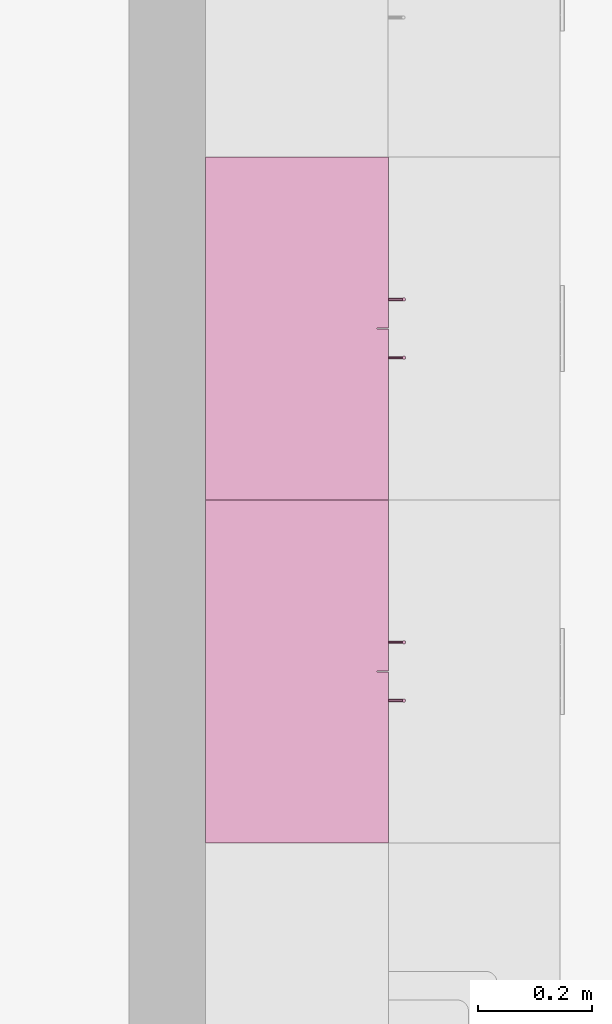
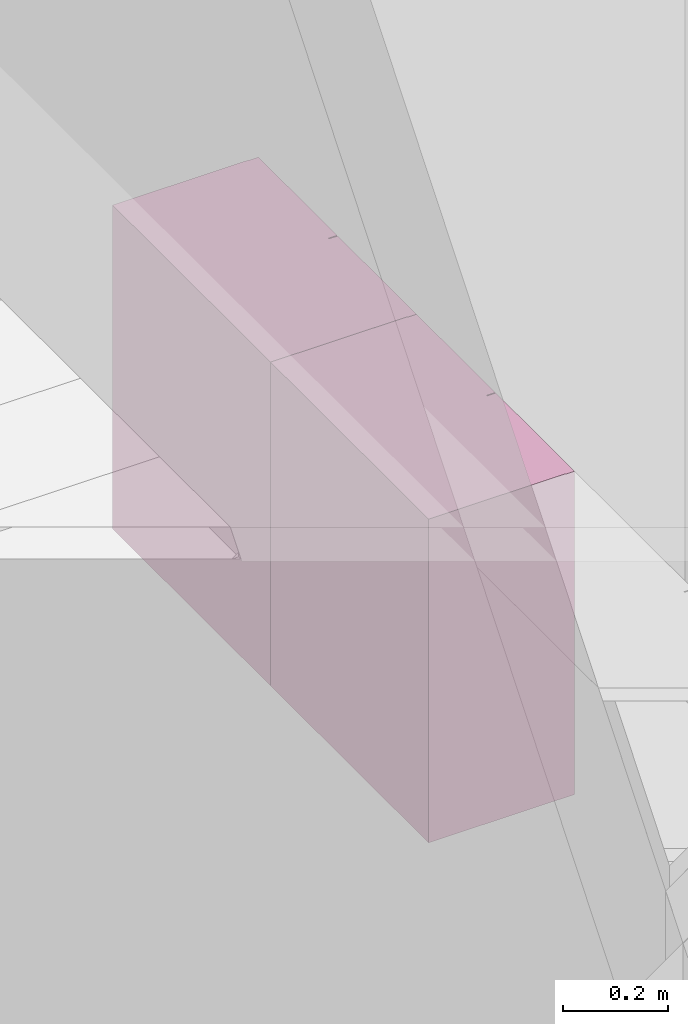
# One storey, part 62 of 68: 2 furnishings.
"""IFC2X3 building model written with IfcOpenShell, lengths in millimetres."""

from ifc_helpers import new_model, entity, si_unit, converted_unit, derived_unit, money_unit, direction, frame, origin_with_axes, place, context, subcontext, project, spatial, open_shell, faceted_brep, surface_model, source, transform, mapped, type_object, element, save


model = new_model("IFC2X3")

# Units and contexts
model_context = context("Model", 3, precision=0.01, world=origin_with_axes(), true_north=direction((0.0, 1.0)))
body_context = subcontext(model_context, "Body", "Model", "MODEL_VIEW")
ifc_project = project(units=[si_unit("LENGTHUNIT", "METRE", prefix="MILLI"), si_unit("AREAUNIT", "SQUARE_METRE"), si_unit("VOLUMEUNIT", "CUBIC_METRE"), converted_unit("PLANEANGLEUNIT", "DEGREE", entity("IfcPlaneAngleMeasure", 0.0174532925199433), si_unit("PLANEANGLEUNIT", "RADIAN"), dimensions=[0, 0, 0, 0, 0, 0, 0]), money_unit("USD"), converted_unit("TIMEUNIT", "Year", entity("IfcTimeMeasure", 31557600.0), si_unit("TIMEUNIT", "SECOND"), dimensions=[0, 0, 1, 0, 0, 0, 0]), si_unit("MASSUNIT", "GRAM", prefix="KILO"), si_unit("THERMODYNAMICTEMPERATUREUNIT", "DEGREE_CELSIUS"), si_unit("LUMINOUSINTENSITYUNIT", "LUMEN"), si_unit("ENERGYUNIT", "JOULE", prefix="MEGA"), derived_unit("THERMALCONDUCTANCEUNIT", [(si_unit("POWERUNIT", "WATT"), 1), (si_unit("LENGTHUNIT", "METRE"), -1), (si_unit("THERMODYNAMICTEMPERATUREUNIT", "KELVIN"), -1)]), derived_unit("SPECIFICHEATCAPACITYUNIT", [(si_unit("ENERGYUNIT", "JOULE"), 1), (si_unit("MASSUNIT", "GRAM", prefix="KILO"), -1), (si_unit("THERMODYNAMICTEMPERATUREUNIT", "KELVIN"), -1)]), derived_unit("MASSDENSITYUNIT", [(si_unit("MASSUNIT", "GRAM", prefix="KILO"), 1), (si_unit("VOLUMEUNIT", "CUBIC_METRE"), -1)])], contexts=[model_context])

# Site, building, storey
site_placement = place(None, origin_with_axes())
site = spatial("IfcSite", under=ifc_project, at=site_placement, Name="Sitio", CompositionType="ELEMENT")
building_placement = place(site_placement, origin_with_axes())
building = spatial("IfcBuilding", under=site, at=building_placement, Name="Construcción", CompositionType="ELEMENT")
storey_placement = place(building_placement, origin_with_axes())
storey = spatial("IfcBuildingStorey", under=building, at=storey_placement, Name="PLANTA 1ª", CompositionType="ELEMENT", Elevation=0.0)

# Furnishings
furnishing_element_type = type_object("IfcFurnishingElementType", Name="Armario Mural 2P 10")
shared_shape = source(origin_with_axes(), body_context, "Body", "SurfaceModel", [
    faceted_brep([(0.0, 0.0, 730.0), (20.0, 0.0, 730.0), (20.0, 0.0, 750.0), (0.0, 0.0, 750.0), (0.0, 299.9999999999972, 730.0), (20.0, 299.9999999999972, 730.0), (579.9999999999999, 299.9999999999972, 730.0), (599.9999999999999, 299.9999999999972, 730.0), (599.9999999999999, 0.0, 730.0), (579.9999999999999, 0.0, 730.0), (579.9999999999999, 0.0, 750.0), (599.9999999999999, 0.0, 750.0), (599.9999999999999, 299.9999999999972, 750.0), (579.9999999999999, 299.9999999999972, 750.0), (20.0, 299.9999999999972, 750.0), (0.0, 299.9999999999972, 750.0)], [[[0, 1, 2, 3]], [[0, 4, 5, 6, 7, 8, 9, 1]], [[1, 9, 10, 2]], [[3, 2, 10, 11, 12, 13, 14, 15]], [[4, 0, 3, 15]], [[5, 4, 15, 14]], [[6, 5, 14, 13]], [[7, 6, 13, 12]], [[8, 7, 12, 11]], [[9, 8, 11, 10]]]),
    faceted_brep([(0.0, 0.0, 0.0), (20.0, 0.0, 0.0), (20.0, 0.0, 20.0), (0.0, 0.0, 20.0), (0.0, 299.9999999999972, 0.0), (20.0, 299.9999999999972, 0.0), (579.9999999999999, 299.9999999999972, 0.0), (599.9999999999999, 299.9999999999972, 0.0), (599.9999999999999, 0.0, 0.0), (579.9999999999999, 0.0, 0.0), (579.9999999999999, 0.0, 20.0), (599.9999999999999, 0.0, 20.0), (599.9999999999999, 299.9999999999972, 20.0), (579.9999999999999, 299.9999999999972, 20.0), (20.0, 299.9999999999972, 20.0), (0.0, 299.9999999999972, 20.0)], [[[0, 1, 2, 3]], [[0, 4, 5, 6, 7, 8, 9, 1]], [[1, 9, 10, 2]], [[3, 2, 10, 11, 12, 13, 14, 15]], [[4, 0, 3, 15]], [[5, 4, 15, 14]], [[6, 5, 14, 13]], [[7, 6, 13, 12]], [[8, 7, 12, 11]], [[9, 8, 11, 10]]]),
    faceted_brep([(0.0, 0.0, 20.0), (20.0, 0.0, 20.0), (20.0, 0.0, 730.0), (0.0, 0.0, 730.0), (0.0, 299.9999999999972, 20.0), (599.9999999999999, 299.9999999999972, 20.0), (599.9999999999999, 0.0, 20.0), (579.9999999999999, 0.0, 20.0), (579.9999999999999, 279.9999999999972, 20.0), (20.0, 279.9999999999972, 20.0), (20.0, 279.9999999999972, 730.0), (579.9999999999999, 279.9999999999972, 730.0), (579.9999999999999, 0.0, 730.0), (599.9999999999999, 0.0, 730.0), (599.9999999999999, 299.9999999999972, 730.0), (0.0, 299.9999999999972, 730.0)], [[[0, 1, 2, 3]], [[0, 4, 5, 6, 7, 8, 9, 1]], [[1, 9, 10, 2]], [[3, 2, 10, 11, 12, 13, 14, 15]], [[4, 0, 3, 15]], [[5, 4, 15, 14]], [[6, 5, 14, 13]], [[7, 6, 13, 12]], [[8, 7, 12, 11]], [[9, 8, 11, 10]]]),
    faceted_brep([(579.9999999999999, 0.0, 230.0), (579.9999999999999, 279.9999999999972, 230.0), (579.9999999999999, 279.9999999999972, 250.0), (579.9999999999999, 0.0, 250.0), (20.0, 0.0, 230.0), (20.0, 279.9999999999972, 230.0), (20.0, 279.9999999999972, 250.0), (20.0, 0.0, 250.0)], [[[0, 1, 2, 3]], [[0, 4, 5, 1]], [[1, 5, 6, 2]], [[3, 2, 6, 7]], [[4, 0, 3, 7]], [[5, 4, 7, 6]]]),
    faceted_brep([(579.9999999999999, 0.0, 480.0), (579.9999999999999, 279.9999999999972, 480.0), (579.9999999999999, 279.9999999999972, 500.0), (579.9999999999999, 0.0, 500.0), (20.0, 0.0, 480.0), (20.0, 279.9999999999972, 480.0), (20.0, 279.9999999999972, 500.0), (20.0, 0.0, 500.0)], [[[0, 1, 2, 3]], [[0, 4, 5, 1]], [[1, 5, 6, 2]], [[3, 2, 6, 7]], [[4, 0, 3, 7]], [[5, 4, 7, 6]]]),
    faceted_brep([(0.0, 0.0, 0.0), (298.9999999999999, 0.0, 0.0), (298.9999999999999, -20.0, 0.0), (0.0, -20.0, 0.0), (0.0, 0.0, 749.0), (298.9999999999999, 0.0, 749.0), (298.9999999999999, -19.99999999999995, 749.0), (0.0, -19.99999999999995, 749.0)], [[[0, 1, 2, 3]], [[0, 4, 5, 1]], [[1, 5, 6, 2]], [[3, 2, 6, 7]], [[4, 0, 3, 7]], [[5, 4, 7, 6]]]),
    faceted_brep([(251.8977774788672, -47.77645713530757, 50.00000000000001), (251.5980762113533, -48.50000000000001, 50.00000000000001), (251.1213203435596, -49.12132034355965, 50.00000000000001), (250.4999999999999, -49.59807621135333, 50.00000000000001), (249.7764571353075, -49.89777747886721, 50.00000000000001), (248.9999999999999, -50.00000000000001, 50.00000000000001), (248.2235428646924, -49.89777747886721, 50.00000000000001), (247.4999999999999, -49.59807621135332, 50.00000000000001), (246.8786796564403, -49.12132034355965, 50.00000000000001), (246.4019237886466, -48.50000000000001, 50.00000000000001), (246.1022225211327, -47.77645713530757, 50.00000000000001), (245.9999999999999, -47.00000000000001, 50.00000000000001), (246.1022225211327, -46.22354286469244, 50.00000000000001), (246.4019237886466, -45.50000000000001, 50.00000000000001), (246.8786796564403, -44.87867965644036, 50.00000000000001), (247.4999999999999, -44.40192378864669, 50.00000000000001), (248.2235428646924, -44.1022225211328, 50.00000000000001), (248.9999999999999, -44.00000000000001, 50.00000000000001), (249.7764571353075, -44.1022225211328, 50.00000000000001), (250.4999999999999, -44.40192378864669, 50.00000000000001), (251.1213203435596, -44.87867965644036, 50.00000000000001), (251.5980762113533, -45.50000000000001, 50.00000000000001), (251.8977774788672, -46.22354286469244, 50.00000000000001), (251.9999999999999, -47.00000000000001, 50.00000000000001), (251.8977774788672, -47.77645713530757, 150.0), (251.5980762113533, -48.50000000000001, 150.0), (251.1213203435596, -49.12132034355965, 150.0), (250.4999999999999, -49.59807621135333, 150.0), (249.7764571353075, -49.89777747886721, 150.0), (248.9999999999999, -50.00000000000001, 150.0), (248.2235428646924, -49.89777747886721, 150.0), (247.4999999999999, -49.59807621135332, 150.0), (246.8786796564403, -49.12132034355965, 150.0), (246.4019237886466, -48.50000000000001, 150.0), (246.1022225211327, -47.77645713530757, 150.0), (245.9999999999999, -47.00000000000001, 150.0), (246.1022225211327, -46.22354286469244, 150.0), (246.4019237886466, -45.50000000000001, 150.0), (246.8786796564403, -44.87867965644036, 150.0), (247.4999999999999, -44.40192378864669, 150.0), (248.2235428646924, -44.1022225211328, 150.0), (248.9999999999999, -44.00000000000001, 150.0), (249.7764571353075, -44.1022225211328, 150.0), (250.4999999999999, -44.40192378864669, 150.0), (251.1213203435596, -44.87867965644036, 150.0), (251.5980762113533, -45.50000000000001, 150.0), (251.8977774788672, -46.22354286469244, 150.0), (251.9999999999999, -47.00000000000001, 150.0)], [[[0, 1, 2, 3, 4, 5, 6, 7, 8, 9, 10, 11, 12, 13, 14, 15, 16, 17, 18, 19, 20, 21, 22, 23]], [[1, 0, 24, 25]], [[2, 1, 25, 26]], [[3, 2, 26, 27]], [[4, 3, 27, 28]], [[5, 4, 28, 29]], [[6, 5, 29, 30]], [[7, 6, 30, 31]], [[8, 7, 31, 32]], [[9, 8, 32, 33]], [[10, 9, 33, 34]], [[11, 10, 34, 35]], [[12, 11, 35, 36]], [[13, 12, 36, 37]], [[14, 13, 37, 38]], [[15, 14, 38, 39]], [[16, 15, 39, 40]], [[17, 16, 40, 41]], [[18, 17, 41, 42]], [[19, 18, 42, 43]], [[20, 19, 43, 44]], [[21, 20, 44, 45]], [[22, 21, 45, 46]], [[23, 22, 46, 47]], [[0, 23, 47, 24]], [[24, 47, 46, 45, 44, 43, 42, 41, 40, 39, 38, 37, 36, 35, 34, 33, 32, 31, 30, 29, 28, 27, 26, 25]]]),
    surface_model("IfcShellBasedSurfaceModel", [(249.6470476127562, -44.07060938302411, 72.58518543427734), (248.9999999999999, -44.0, 72.50000000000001), (248.9999999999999, -20.0, 72.50000000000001), (249.6470476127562, -20.0, 72.58518543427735), (248.3529523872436, -44.07060938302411, 72.58518543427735), (248.3529523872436, -20.0, 72.58518543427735), (247.7499999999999, -20.0, 72.83493649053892), (247.2322330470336, -20.0, 73.23223304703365), (246.8349364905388, -20.0, 73.75000000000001), (246.5851854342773, -20.0, 74.3529523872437), (246.4999999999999, -20.0, 75.00000000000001), (246.5851854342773, -20.0, 75.64704761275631), (246.8349364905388, -20.0, 76.25000000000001), (247.2322330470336, -20.0, 76.76776695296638), (247.7499999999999, -20.0, 77.1650635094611), (248.3529523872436, -20.0, 77.4148145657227), (248.9999999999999, -20.0, 77.50000000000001), (249.6470476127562, -20.0, 77.4148145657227), (250.2499999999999, -20.0, 77.1650635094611), (250.7677669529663, -20.0, 76.76776695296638), (251.165063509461, -20.0, 76.25000000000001), (251.4148145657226, -20.0, 75.64704761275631), (251.4999999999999, -20.0, 75.00000000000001), (251.4148145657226, -20.0, 74.3529523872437), (251.165063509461, -20.0, 73.75000000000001), (250.7677669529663, -20.0, 73.23223304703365), (250.25, -20.0, 72.83493649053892), (250.25, -44.27282197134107, 72.83493649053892), (247.7499999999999, -44.27282197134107, 72.83493649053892), (247.2322330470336, -44.57616007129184, 73.23223304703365), (246.8349364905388, -44.92334403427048, 73.75000000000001), (246.5851854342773, -45.21992398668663, 74.3529523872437), (246.4999999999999, -45.3416876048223, 75.00000000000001), (246.5851854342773, -45.21992398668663, 75.64704761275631), (246.8349364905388, -44.92334403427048, 76.25000000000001), (247.2322330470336, -44.57616007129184, 76.76776695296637), (247.7499999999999, -44.27282197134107, 77.1650635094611), (248.3529523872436, -44.07060938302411, 77.41481456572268), (248.9999999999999, -44.0, 77.50000000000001), (249.6470476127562, -44.07060938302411, 77.4148145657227), (250.2499999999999, -44.27282197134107, 77.1650635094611), (250.7677669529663, -44.57616007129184, 76.76776695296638), (251.165063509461, -44.92334403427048, 76.25000000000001), (251.4148145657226, -45.21992398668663, 75.64704761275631), (251.4999999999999, -45.3416876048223, 75.00000000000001), (251.4148145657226, -45.21992398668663, 74.3529523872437), (251.165063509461, -44.92334403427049, 73.75000000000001), (250.7677669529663, -44.57616007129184, 73.23223304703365)], [open_shell([[[0, 1, 2, 3]], [[1, 4, 5, 2]], [[3, 2, 5, 6, 7, 8, 9, 10, 11, 12, 13, 14, 15, 16, 17, 18, 19, 20, 21, 22, 23, 24, 25, 26]], [[27, 0, 3, 26]], [[4, 28, 6, 5]], [[28, 29, 7, 6]], [[29, 30, 8, 7]], [[30, 31, 9, 8]], [[31, 32, 10, 9]], [[32, 33, 11, 10]], [[33, 34, 12, 11]], [[34, 35, 13, 12]], [[35, 36, 14, 13]], [[36, 37, 15, 14]], [[37, 38, 16, 15]], [[38, 39, 17, 16]], [[39, 40, 18, 17]], [[40, 41, 19, 18]], [[41, 42, 20, 19]], [[42, 43, 21, 20]], [[43, 44, 22, 21]], [[44, 45, 23, 22]], [[45, 46, 24, 23]], [[46, 47, 25, 24]], [[47, 27, 26, 25]]])]),
    surface_model("IfcShellBasedSurfaceModel", [(249.6470476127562, -44.07060938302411, 122.5851854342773), (248.9999999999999, -44.0, 122.5), (248.9999999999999, -20.0, 122.5), (249.6470476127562, -20.0, 122.5851854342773), (248.3529523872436, -44.07060938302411, 122.5851854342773), (248.3529523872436, -20.0, 122.5851854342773), (247.7499999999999, -20.0, 122.8349364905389), (247.2322330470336, -20.0, 123.2322330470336), (246.8349364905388, -20.0, 123.75), (246.5851854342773, -20.0, 124.3529523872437), (246.4999999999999, -20.0, 125.0), (246.5851854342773, -20.0, 125.6470476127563), (246.8349364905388, -20.0, 126.25), (247.2322330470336, -20.0, 126.7677669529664), (247.7499999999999, -20.0, 127.1650635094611), (248.3529523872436, -20.0, 127.4148145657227), (248.9999999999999, -20.0, 127.5), (249.6470476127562, -20.0, 127.4148145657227), (250.2499999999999, -20.0, 127.1650635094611), (250.7677669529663, -20.0, 126.7677669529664), (251.165063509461, -20.0, 126.25), (251.4148145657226, -20.0, 125.6470476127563), (251.4999999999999, -20.0, 125.0), (251.4148145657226, -20.0, 124.3529523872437), (251.165063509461, -20.0, 123.75), (250.7677669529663, -20.0, 123.2322330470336), (250.25, -20.0, 122.8349364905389), (250.25, -44.27282197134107, 122.8349364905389), (247.7499999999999, -44.27282197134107, 122.8349364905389), (247.2322330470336, -44.57616007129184, 123.2322330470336), (246.8349364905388, -44.92334403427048, 123.75), (246.5851854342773, -45.21992398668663, 124.3529523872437), (246.4999999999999, -45.3416876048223, 125.0), (246.5851854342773, -45.21992398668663, 125.6470476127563), (246.8349364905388, -44.92334403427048, 126.25), (247.2322330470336, -44.57616007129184, 126.7677669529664), (247.7499999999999, -44.27282197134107, 127.1650635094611), (248.3529523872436, -44.07060938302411, 127.4148145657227), (248.9999999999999, -44.0, 127.5), (249.6470476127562, -44.07060938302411, 127.4148145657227), (250.2499999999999, -44.27282197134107, 127.1650635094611), (250.7677669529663, -44.57616007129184, 126.7677669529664), (251.165063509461, -44.92334403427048, 126.25), (251.4148145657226, -45.21992398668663, 125.6470476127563), (251.4999999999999, -45.3416876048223, 125.0), (251.4148145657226, -45.21992398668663, 124.3529523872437), (251.165063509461, -44.92334403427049, 123.75), (250.7677669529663, -44.57616007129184, 123.2322330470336)], [open_shell([[[0, 1, 2, 3]], [[1, 4, 5, 2]], [[3, 2, 5, 6, 7, 8, 9, 10, 11, 12, 13, 14, 15, 16, 17, 18, 19, 20, 21, 22, 23, 24, 25, 26]], [[27, 0, 3, 26]], [[4, 28, 6, 5]], [[28, 29, 7, 6]], [[29, 30, 8, 7]], [[30, 31, 9, 8]], [[31, 32, 10, 9]], [[32, 33, 11, 10]], [[33, 34, 12, 11]], [[34, 35, 13, 12]], [[35, 36, 14, 13]], [[36, 37, 15, 14]], [[37, 38, 16, 15]], [[38, 39, 17, 16]], [[39, 40, 18, 17]], [[40, 41, 19, 18]], [[41, 42, 20, 19]], [[42, 43, 21, 20]], [[43, 44, 22, 21]], [[44, 45, 23, 22]], [[45, 46, 24, 23]], [[46, 47, 25, 24]], [[47, 27, 26, 25]]])]),
    faceted_brep([(599.9999999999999, 0.0, 0.0), (599.9999999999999, -20.0, 0.0), (300.9999999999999, -20.0, 0.0), (300.9999999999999, 0.0, 0.0), (599.9999999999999, 0.0, 749.0), (599.9999999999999, -19.99999999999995, 749.0), (300.9999999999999, -19.99999999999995, 749.0), (300.9999999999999, 0.0, 749.0)], [[[0, 1, 2, 3]], [[4, 5, 1, 0]], [[1, 5, 6, 2]], [[3, 2, 6, 7]], [[0, 3, 7, 4]], [[7, 6, 5, 4]]]),
    faceted_brep([(348.1022225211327, -47.77645713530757, 50.00000000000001), (347.9999999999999, -47.00000000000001, 50.00000000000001), (348.1022225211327, -46.22354286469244, 50.00000000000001), (348.4019237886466, -45.50000000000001, 50.00000000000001), (348.8786796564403, -44.87867965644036, 50.00000000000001), (349.4999999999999, -44.40192378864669, 50.00000000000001), (350.2235428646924, -44.1022225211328, 50.00000000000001), (350.9999999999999, -44.00000000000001, 50.00000000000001), (351.7764571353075, -44.1022225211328, 50.00000000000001), (352.4999999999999, -44.40192378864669, 50.00000000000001), (353.1213203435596, -44.87867965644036, 50.00000000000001), (353.5980762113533, -45.50000000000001, 50.00000000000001), (353.8977774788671, -46.22354286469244, 50.00000000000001), (353.9999999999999, -47.00000000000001, 50.00000000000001), (353.8977774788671, -47.77645713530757, 50.00000000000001), (353.5980762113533, -48.50000000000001, 50.00000000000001), (353.1213203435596, -49.12132034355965, 50.00000000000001), (352.4999999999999, -49.59807621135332, 50.00000000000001), (351.7764571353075, -49.89777747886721, 50.00000000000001), (350.9999999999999, -50.00000000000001, 50.00000000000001), (350.2235428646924, -49.89777747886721, 50.00000000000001), (349.4999999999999, -49.59807621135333, 50.00000000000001), (348.8786796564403, -49.12132034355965, 50.00000000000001), (348.4019237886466, -48.50000000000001, 50.00000000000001), (348.1022225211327, -47.77645713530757, 150.0), (347.9999999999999, -47.00000000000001, 150.0), (348.1022225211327, -46.22354286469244, 150.0), (348.4019237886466, -45.50000000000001, 150.0), (348.8786796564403, -44.87867965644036, 150.0), (349.4999999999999, -44.40192378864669, 150.0), (350.2235428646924, -44.1022225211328, 150.0), (350.9999999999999, -44.00000000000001, 150.0), (351.7764571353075, -44.1022225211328, 150.0), (352.4999999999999, -44.40192378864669, 150.0), (353.1213203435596, -44.87867965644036, 150.0), (353.5980762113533, -45.50000000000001, 150.0), (353.8977774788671, -46.22354286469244, 150.0), (353.9999999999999, -47.00000000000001, 150.0), (353.8977774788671, -47.77645713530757, 150.0), (353.5980762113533, -48.50000000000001, 150.0), (353.1213203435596, -49.12132034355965, 150.0), (352.4999999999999, -49.59807621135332, 150.0), (351.7764571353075, -49.89777747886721, 150.0), (350.9999999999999, -50.00000000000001, 150.0), (350.2235428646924, -49.89777747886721, 150.0), (349.4999999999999, -49.59807621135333, 150.0), (348.8786796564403, -49.12132034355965, 150.0), (348.4019237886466, -48.50000000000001, 150.0)], [[[0, 1, 2, 3, 4, 5, 6, 7, 8, 9, 10, 11, 12, 13, 14, 15, 16, 17, 18, 19, 20, 21, 22, 23]], [[0, 24, 25, 1]], [[1, 25, 26, 2]], [[2, 26, 27, 3]], [[3, 27, 28, 4]], [[4, 28, 29, 5]], [[5, 29, 30, 6]], [[6, 30, 31, 7]], [[7, 31, 32, 8]], [[8, 32, 33, 9]], [[9, 33, 34, 10]], [[10, 34, 35, 11]], [[11, 35, 36, 12]], [[12, 36, 37, 13]], [[13, 37, 38, 14]], [[14, 38, 39, 15]], [[15, 39, 40, 16]], [[16, 40, 41, 17]], [[17, 41, 42, 18]], [[18, 42, 43, 19]], [[19, 43, 44, 20]], [[20, 44, 45, 21]], [[21, 45, 46, 22]], [[22, 46, 47, 23]], [[23, 47, 24, 0]], [[24, 47, 46, 45, 44, 43, 42, 41, 40, 39, 38, 37, 36, 35, 34, 33, 32, 31, 30, 29, 28, 27, 26, 25]]]),
    surface_model("IfcShellBasedSurfaceModel", [(350.3529523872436, -44.07060938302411, 72.58518543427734), (350.3529523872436, -20.0, 72.58518543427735), (350.9999999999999, -20.0, 72.50000000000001), (350.9999999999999, -44.0, 72.50000000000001), (349.7499999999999, -44.27282197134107, 72.83493649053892), (349.7499999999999, -20.0, 72.83493649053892), (349.2322330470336, -20.0, 73.23223304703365), (348.8349364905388, -20.0, 73.75000000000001), (348.5851854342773, -20.0, 74.3529523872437), (348.4999999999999, -20.0, 75.00000000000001), (348.5851854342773, -20.0, 75.64704761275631), (348.8349364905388, -20.0, 76.25000000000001), (349.2322330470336, -20.0, 76.76776695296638), (349.7499999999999, -20.0, 77.1650635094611), (350.3529523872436, -20.0, 77.4148145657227), (350.9999999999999, -20.0, 77.50000000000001), (351.6470476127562, -20.0, 77.4148145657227), (352.2499999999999, -20.0, 77.1650635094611), (352.7677669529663, -20.0, 76.76776695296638), (353.165063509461, -20.0, 76.25000000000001), (353.4148145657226, -20.0, 75.64704761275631), (353.4999999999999, -20.0, 75.00000000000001), (353.4148145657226, -20.0, 74.3529523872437), (353.165063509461, -20.0, 73.75000000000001), (352.7677669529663, -20.0, 73.23223304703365), (352.2499999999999, -20.0, 72.83493649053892), (351.6470476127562, -20.0, 72.58518543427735), (351.6470476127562, -44.07060938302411, 72.58518543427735), (349.2322330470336, -44.57616007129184, 73.23223304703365), (348.8349364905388, -44.92334403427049, 73.75000000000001), (348.5851854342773, -45.21992398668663, 74.3529523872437), (348.4999999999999, -45.3416876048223, 75.00000000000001), (348.5851854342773, -45.21992398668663, 75.64704761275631), (348.8349364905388, -44.92334403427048, 76.25000000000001), (349.2322330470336, -44.57616007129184, 76.76776695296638), (349.7499999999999, -44.27282197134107, 77.1650635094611), (350.3529523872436, -44.07060938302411, 77.4148145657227), (350.9999999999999, -44.0, 77.50000000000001), (351.6470476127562, -44.07060938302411, 77.41481456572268), (352.2499999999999, -44.27282197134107, 77.1650635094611), (352.7677669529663, -44.57616007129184, 76.76776695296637), (353.165063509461, -44.92334403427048, 76.25000000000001), (353.4148145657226, -45.21992398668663, 75.64704761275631), (353.4999999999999, -45.3416876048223, 75.00000000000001), (353.4148145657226, -45.21992398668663, 74.3529523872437), (353.165063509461, -44.92334403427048, 73.75000000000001), (352.7677669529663, -44.57616007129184, 73.23223304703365), (352.2499999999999, -44.27282197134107, 72.83493649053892)], [open_shell([[[0, 1, 2, 3]], [[4, 5, 1, 0]], [[1, 5, 6, 7, 8, 9, 10, 11, 12, 13, 14, 15, 16, 17, 18, 19, 20, 21, 22, 23, 24, 25, 26, 2]], [[3, 2, 26, 27]], [[28, 6, 5, 4]], [[29, 7, 6, 28]], [[30, 8, 7, 29]], [[31, 9, 8, 30]], [[32, 10, 9, 31]], [[33, 11, 10, 32]], [[34, 12, 11, 33]], [[35, 13, 12, 34]], [[36, 14, 13, 35]], [[37, 15, 14, 36]], [[38, 16, 15, 37]], [[39, 17, 16, 38]], [[40, 18, 17, 39]], [[41, 19, 18, 40]], [[42, 20, 19, 41]], [[43, 21, 20, 42]], [[44, 22, 21, 43]], [[45, 23, 22, 44]], [[46, 24, 23, 45]], [[47, 25, 24, 46]], [[27, 26, 25, 47]]])]),
    surface_model("IfcShellBasedSurfaceModel", [(350.3529523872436, -44.07060938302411, 122.5851854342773), (350.3529523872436, -20.0, 122.5851854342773), (350.9999999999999, -20.0, 122.5), (350.9999999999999, -44.0, 122.5), (349.7499999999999, -44.27282197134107, 122.8349364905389), (349.7499999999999, -20.0, 122.8349364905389), (349.2322330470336, -20.0, 123.2322330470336), (348.8349364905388, -20.0, 123.75), (348.5851854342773, -20.0, 124.3529523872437), (348.4999999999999, -20.0, 125.0), (348.5851854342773, -20.0, 125.6470476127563), (348.8349364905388, -20.0, 126.25), (349.2322330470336, -20.0, 126.7677669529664), (349.7499999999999, -20.0, 127.1650635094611), (350.3529523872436, -20.0, 127.4148145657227), (350.9999999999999, -20.0, 127.5), (351.6470476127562, -20.0, 127.4148145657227), (352.2499999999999, -20.0, 127.1650635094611), (352.7677669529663, -20.0, 126.7677669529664), (353.165063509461, -20.0, 126.25), (353.4148145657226, -20.0, 125.6470476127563), (353.4999999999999, -20.0, 125.0), (353.4148145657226, -20.0, 124.3529523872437), (353.165063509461, -20.0, 123.75), (352.7677669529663, -20.0, 123.2322330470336), (352.2499999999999, -20.0, 122.8349364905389), (351.6470476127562, -20.0, 122.5851854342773), (351.6470476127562, -44.07060938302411, 122.5851854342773), (349.2322330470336, -44.57616007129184, 123.2322330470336), (348.8349364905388, -44.92334403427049, 123.75), (348.5851854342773, -45.21992398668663, 124.3529523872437), (348.4999999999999, -45.3416876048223, 125.0), (348.5851854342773, -45.21992398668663, 125.6470476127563), (348.8349364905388, -44.92334403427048, 126.25), (349.2322330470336, -44.57616007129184, 126.7677669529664), (349.7499999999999, -44.27282197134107, 127.1650635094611), (350.3529523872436, -44.07060938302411, 127.4148145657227), (350.9999999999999, -44.0, 127.5), (351.6470476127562, -44.07060938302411, 127.4148145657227), (352.2499999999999, -44.27282197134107, 127.1650635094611), (352.7677669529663, -44.57616007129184, 126.7677669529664), (353.165063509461, -44.92334403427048, 126.25), (353.4148145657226, -45.21992398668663, 125.6470476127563), (353.4999999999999, -45.3416876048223, 125.0), (353.4148145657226, -45.21992398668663, 124.3529523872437), (353.165063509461, -44.92334403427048, 123.75), (352.7677669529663, -44.57616007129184, 123.2322330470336), (352.2499999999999, -44.27282197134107, 122.8349364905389)], [open_shell([[[0, 1, 2, 3]], [[4, 5, 1, 0]], [[1, 5, 6, 7, 8, 9, 10, 11, 12, 13, 14, 15, 16, 17, 18, 19, 20, 21, 22, 23, 24, 25, 26, 2]], [[3, 2, 26, 27]], [[28, 6, 5, 4]], [[29, 7, 6, 28]], [[30, 8, 7, 29]], [[31, 9, 8, 30]], [[32, 10, 9, 31]], [[33, 11, 10, 32]], [[34, 12, 11, 33]], [[35, 13, 12, 34]], [[36, 14, 13, 35]], [[37, 15, 14, 36]], [[38, 16, 15, 37]], [[39, 17, 16, 38]], [[40, 18, 17, 39]], [[41, 19, 18, 40]], [[42, 20, 19, 41]], [[43, 21, 20, 42]], [[44, 22, 21, 43]], [[45, 23, 22, 44]], [[46, 24, 23, 45]], [[47, 25, 24, 46]], [[27, 26, 25, 47]]])]),
])
for number, where, z_axis, x_axis in (
    (1, (824.8910778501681, 376.0243409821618, 1500.0), (0.0, 0.0, 1.0), (0.0, 1.0, 0.0)),
    (2, (824.8910778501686, -223.9756597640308, 1500.0), (0.0, 0.0, 1.0), (0.0, 1.0, 0.0)),
):
    element("IfcFurnishingElement", number, at=place(storey_placement, frame(where, z_axis=z_axis, x_axis=x_axis)), inside=storey, type_object=furnishing_element_type, Name="60.20.66 Armari", context=body_context, shape_type="MappedRepresentation", body=[
        mapped(shared_shape, transform((0.0, 0.0, 0.0))),
    ])

save(model, "model.ifc")
